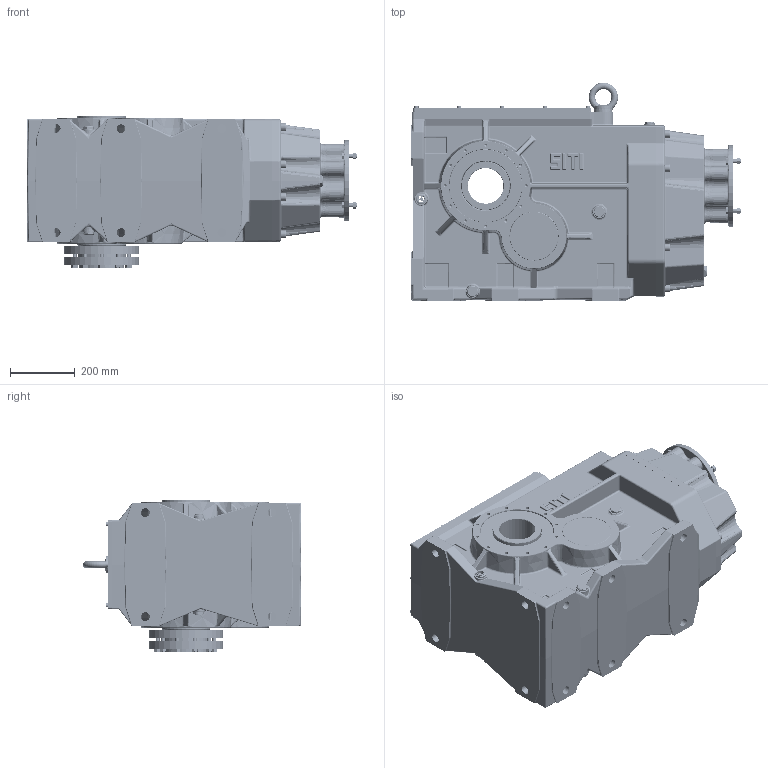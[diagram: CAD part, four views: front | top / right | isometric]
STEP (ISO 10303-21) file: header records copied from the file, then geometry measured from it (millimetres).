
FILE_DESCRIPTION((''),'2;1');
FILE_NAME('O:\Figurini\Figurini BH\3D\200\MBHGC 200 CC-A GR 100-112 B5.stp','2013-05-27T16:38:18',('d.iannaccio'),(''),'Autodesk Inventor 2012','Autodesk Inventor 2012','');
FILE_SCHEMA(('AUTOMOTIVE_DESIGN { 1 0 10303 214 1 1 1 1 }'));
Length unit declared in the file: millimetre
Products named in the file (1): MBHGC_200 CC-A GR 100-112 B5
Bounding box: 1016.5 x 672.92 x 470 mm (x, y, z)
Volume: 52917425.4 mm3; surface area: 5453567.1 mm2
Topology: 4 solids, 64 shells, 4298 faces, 10157 edges, 6091 vertices
Faces by surface type: cylinder 1300, plane 1291, bspline 671, cone 446, torus 427, sphere 163
Full cylindrical faces by diameter (mm): 2.4 x1, 6.647 x13, 8 x25, 9 x12, 10 x18, 10.106 x24, 10.5 x2, 12 x44, 13 x20, 13.835 x8, 14 x4, 16 x8, 16.63 x10, 17 x9, 18 x9, 19.6 x1, 20 x2, 20.5 x8, 20.752 x2, 22 x1, 24 x8, 24.117 x8, 25 x1, 26 x1, 26.5 x2, 27 x10, 31 x7, 31.9 x1, 40 x1, 42 x1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
Entity records: 146341 total; most frequent: CARTESIAN_POINT 50727, DIRECTION 18902, ORIENTED_EDGE 18276, EDGE_CURVE 9138, AXIS2_PLACEMENT_3D 7816, VERTEX_POINT 5797, EDGE_LOOP 5284, FACE_OUTER_BOUND 4298
